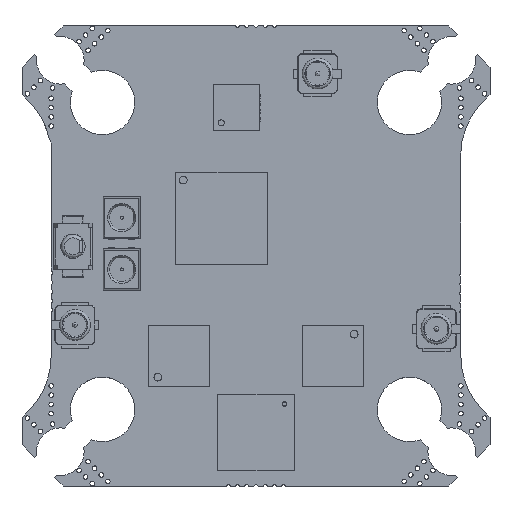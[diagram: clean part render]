
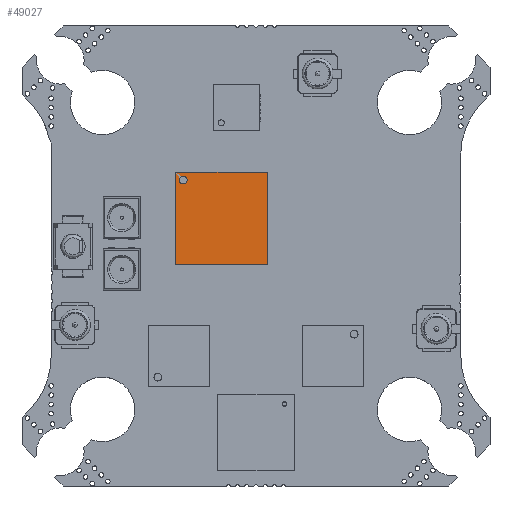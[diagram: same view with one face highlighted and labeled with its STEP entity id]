
A CAD part, top view. The second image highlights one B-rep face of the part: STEP entity #49027.
In plain terms, the highlighted planar face has unit normal (0, 0, 1) as drawn and (0, 1, 0) by its records, which use the part's own axes.
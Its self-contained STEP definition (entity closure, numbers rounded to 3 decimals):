
#48751 = EDGE_CURVE('',#48752,#48752,#48754,.T.);
#48752 = VERTEX_POINT('',#48753);
#48753 = CARTESIAN_POINT('',(-2.495,0.9,-2.245));
#48754 = CIRCLE('',#48755,0.25);
#48755 = AXIS2_PLACEMENT_3D('',#48756,#48757,#48758);
#48756 = CARTESIAN_POINT('',(-2.495,0.9,-2.495));
#48757 = DIRECTION('',(0.,-1.,0.));
#48758 = DIRECTION('',(0.,0.,1.));
#48795 = VERTEX_POINT('',#48796);
#48796 = CARTESIAN_POINT('',(2.995,0.9,-2.995));
#48802 = EDGE_CURVE('',#48803,#48795,#48805,.T.);
#48803 = VERTEX_POINT('',#48804);
#48804 = CARTESIAN_POINT('',(2.995,0.9,2.995));
#48805 = LINE('',#48806,#48807);
#48806 = CARTESIAN_POINT('',(2.995,0.9,0.));
#48807 = VECTOR('',#48808,1.);
#48808 = DIRECTION('',(0.,0.,-1.));
#48871 = VERTEX_POINT('',#48872);
#48872 = CARTESIAN_POINT('',(-2.995,0.9,-2.995));
#48878 = EDGE_CURVE('',#48795,#48871,#48879,.T.);
#48879 = LINE('',#48880,#48881);
#48880 = CARTESIAN_POINT('',(0.,0.9,-2.995));
#48881 = VECTOR('',#48882,1.);
#48882 = DIRECTION('',(-1.,0.,0.));
#48922 = VERTEX_POINT('',#48923);
#48923 = CARTESIAN_POINT('',(-2.995,0.9,2.995));
#48929 = EDGE_CURVE('',#48871,#48922,#48930,.T.);
#48930 = LINE('',#48931,#48932);
#48931 = CARTESIAN_POINT('',(-2.995,0.9,0.));
#48932 = VECTOR('',#48933,1.);
#48933 = DIRECTION('',(0.,0.,1.));
#49014 = EDGE_CURVE('',#48922,#48803,#49015,.T.);
#49015 = LINE('',#49016,#49017);
#49016 = CARTESIAN_POINT('',(0.,0.9,2.995));
#49017 = VECTOR('',#49018,1.);
#49018 = DIRECTION('',(1.,0.,0.));
#49027 = ADVANCED_FACE('',(#49028,#49034),#49037,.T.);
#49028 = FACE_BOUND('',#49029,.T.);
#49029 = EDGE_LOOP('',(#49030,#49031,#49032,#49033));
#49030 = ORIENTED_EDGE('',*,*,#48929,.T.);
#49031 = ORIENTED_EDGE('',*,*,#49014,.T.);
#49032 = ORIENTED_EDGE('',*,*,#48802,.T.);
#49033 = ORIENTED_EDGE('',*,*,#48878,.T.);
#49034 = FACE_BOUND('',#49035,.T.);
#49035 = EDGE_LOOP('',(#49036));
#49036 = ORIENTED_EDGE('',*,*,#48751,.T.);
#49037 = PLANE('',#49038);
#49038 = AXIS2_PLACEMENT_3D('',#49039,#49040,#49041);
#49039 = CARTESIAN_POINT('',(0.,0.9,0.));
#49040 = DIRECTION('',(0.,1.,0.));
#49041 = DIRECTION('',(0.,0.,1.));
